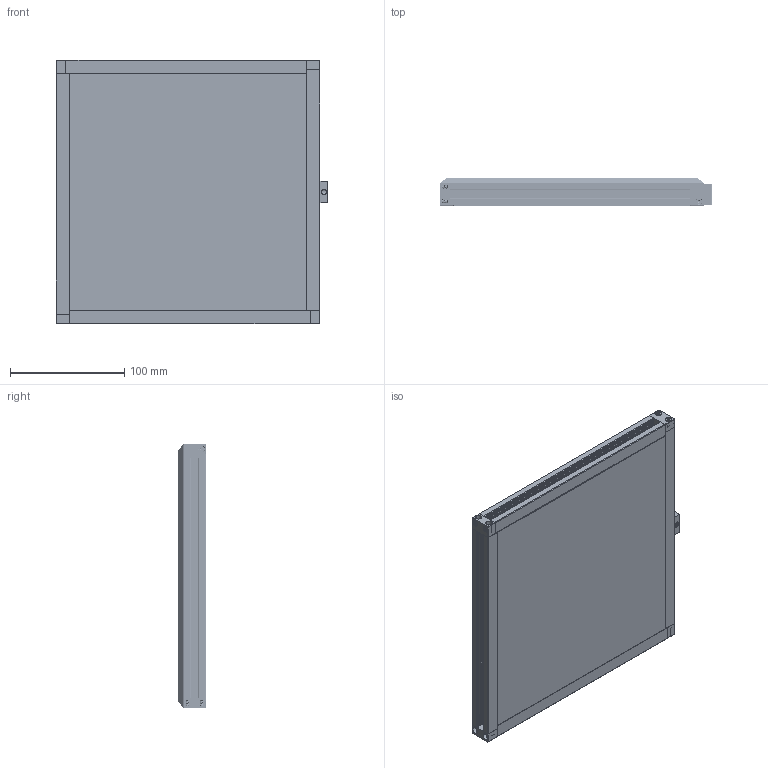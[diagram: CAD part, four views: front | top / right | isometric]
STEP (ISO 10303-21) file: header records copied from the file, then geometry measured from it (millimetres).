
FILE_DESCRIPTION (( 'STEP AP214' ), '1' );
FILE_NAME ('BL2-0808.STEP', '2022-11-09T19:00:16', ( '' ), ( '' ), 'SwSTEP 2.0', 'SolidWorks 2018', '' );
FILE_SCHEMA (( 'AUTOMOTIVE_DESIGN' ));
Length unit declared in the file: inch
Products named in the file (9): 129-01-005-XXYY_129-01-005-0808; 098782_098794-08; 098782_098793-08; 098861_098861; 098787; 095606_Default<As Machined>; 129-01-006-XXXX_129-01-006-0808; BL2-0808; 098862_098862
Assembly tree (27 placements, depth 2):
  BL2-0808
    129-01-006-XXXX_129-01-006-0808
    098782_098794-08
    098782_098793-08  x3
    098787  x4
    098861_098861  x8
    098862_098862  x8
    095606_Default<As Machined>
    129-01-005-XXYY_129-01-005-0808
Bounding box: 237.91 x 24.05 x 230.99 mm (x, y, z)
Volume: 482054.1 mm3; surface area: 291459.3 mm2
Topology: 27 solids, 27 shells, 1723 faces, 4684 edges, 3040 vertices
Faces by surface type: cylinder 1154, cone 274, plane 238, bspline 57
Entity records: 24312 total; most frequent: CARTESIAN_POINT 13865, ORIENTED_EDGE 2288, DIRECTION 1930, EDGE_CURVE 1144, VERTEX_POINT 748, AXIS2_PLACEMENT_3D 701, VECTOR 528, LINE 528
